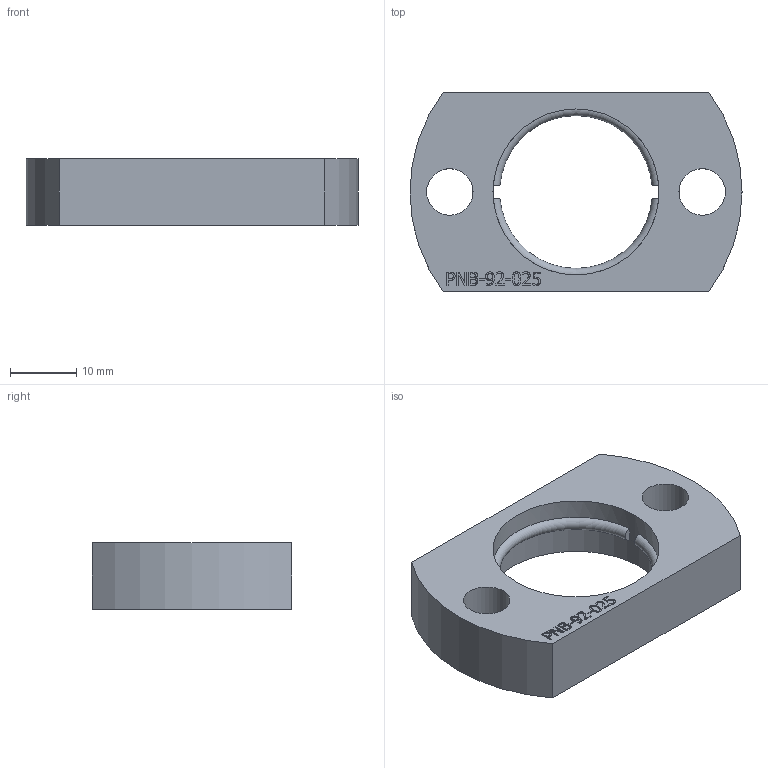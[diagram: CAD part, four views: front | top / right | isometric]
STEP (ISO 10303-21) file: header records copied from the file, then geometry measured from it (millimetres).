
FILE_DESCRIPTION(/* description */ (''),/* implementation_level */ '2;1');
FILE_NAME(/* name */ 'C:\Users\Jefferson\Desktop\Biblioteca Pro Nitro 2024 - Inventor\Flanges\PNB-92-025\PNB-92-025.stp',/* time_stamp */ '2025-01-02T09:31:41-03:00',/* author */ ('Jefferson'),/* organization */ (''),/* preprocessor_version */ 'ST-DEVELOPER v19',/* originating_system */ 'Autodesk Inventor 2023',/* authorisation */ '');
FILE_SCHEMA (('AUTOMOTIVE_DESIGN { 1 0 10303 214 3 1 1 }'));
Length unit declared in the file: millimetre
Products named in the file (1): PNB-92-025
Bounding box: 50 x 30 x 10 mm (x, y, z)
Volume: 8068.8 mm3; surface area: 4460.3 mm2
Topology: 1 solids, 1 shells, 177 faces, 473 edges, 314 vertices
Faces by surface type: bspline 88, plane 81, cylinder 6, torus 2
Full cylindrical faces by diameter (mm): 7 x2, 25 x1, 27 x1
Entity records: 6081 total; most frequent: CARTESIAN_POINT 2177, ORIENTED_EDGE 946, DIRECTION 491, EDGE_CURVE 473, VERTEX_POINT 314, LINE 275, VECTOR 275, EDGE_LOOP 199
